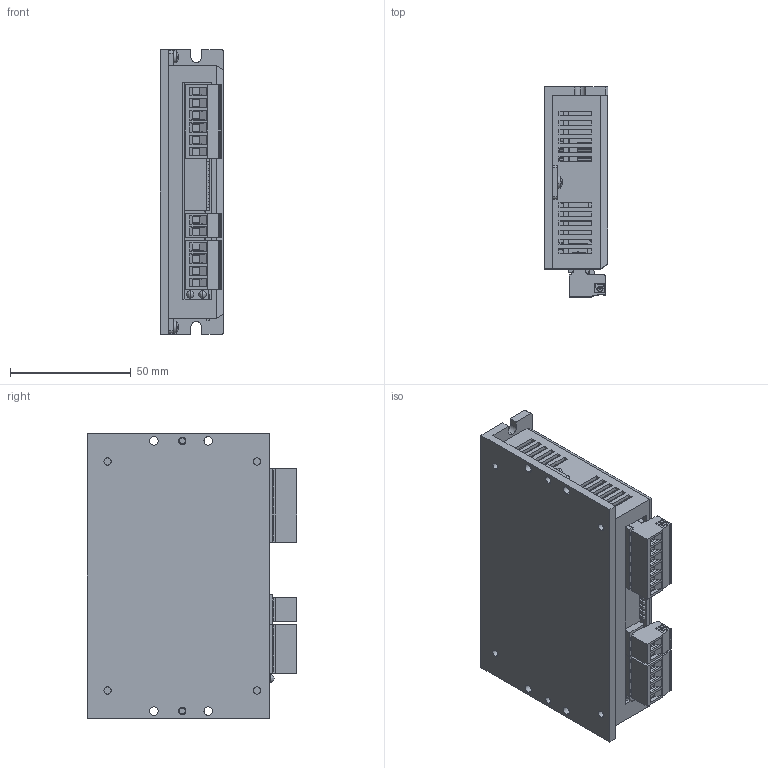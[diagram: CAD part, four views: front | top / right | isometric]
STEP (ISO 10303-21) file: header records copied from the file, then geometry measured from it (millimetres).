
FILE_DESCRIPTION (( 'STEP AP203' ), '1' );
FILE_NAME ('2DM542C.STEP', '2019-11-01T01:47:00', ( 'USER-' ), ( 'MS' ), 'SwSTEP 2.0', 'SolidWorks 2015', '' );
FILE_SCHEMA (( 'CONFIG_CONTROL_DESIGN' ));
Length unit declared in the file: millimetre
Products named in the file (15): User Library-MSTB 2,5-6-G-5,08 1759059_mstb_2.5-6-g-5.08; 6位拨码开关_Défaut; 2DM542散热器; 5.08 -6p 母头_Défaut; User Library-MSTB 2,5-4-G-5,08 1759033_mstb_2.5-4-g-5.08; cross recessed pan head screws gb_GB_CROSS_SCREWS_TYPE1 M2.5X3-3  H type-N; 8位拨码开关_Défaut; 2DM542C; RJ21; 2DM542奻裔; two led; 5.08-2p 公头_Défaut; 5.08 -4p 母头_Défaut; 5.08-2p 母头_Défaut; 57PCB
Assembly tree (15 placements, depth 2):
  2DM542C
    5.08-2p 公头_Défaut
    5.08-2p 母头_Défaut
    User Library-MSTB 2,5-6-G-5,08 1759059_mstb_2.5-6-g-5.08
    2DM542散热器
    User Library-MSTB 2,5-4-G-5,08 1759033_mstb_2.5-4-g-5.08
    8位拨码开关_Défaut
    RJ21
    2DM542奻裔
    two led
    5.08 -4p 母头_Défaut
    57PCB
    6位拨码开关_Défaut
    5.08 -6p 母头_Défaut
    cross recessed pan head screws gb_GB_CROSS_SCREWS_TYPE1 M2.5X3-3  H type-N  x2
Bounding box: 26.5 x 87 x 118 mm (x, y, z)
Volume: 90503.2 mm3; surface area: 80205.5 mm2
Topology: 15 solids, 15 shells, 2389 faces, 6038 edges, 3864 vertices
Faces by surface type: plane 1717, cylinder 529, torus 57, bspline 45, sphere 29, cone 12
Entity records: 73595 total; most frequent: CARTESIAN_POINT 15735, ORIENTED_EDGE 11804, DIRECTION 11097, EDGE_CURVE 5902, LINE 4259, VECTOR 4259, VERTEX_POINT 3798, AXIS2_PLACEMENT_3D 3419
